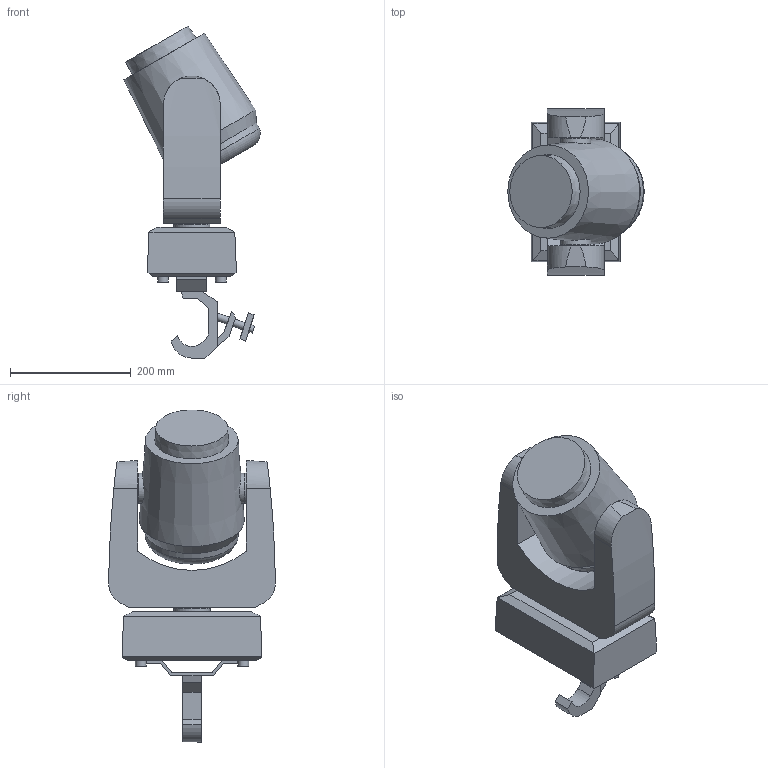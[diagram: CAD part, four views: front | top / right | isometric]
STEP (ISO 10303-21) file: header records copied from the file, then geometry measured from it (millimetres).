
FILE_DESCRIPTION(/* description */ ('Unknown'),/* implementation_level */ '2;1');
FILE_NAME(/* name */ '3D_Robin Spikie_as_is',/* time_stamp */ '2018-06-27T10:26:03+02:00',/* author */ ('Unknown'),/* organization */ ('Unknown'),/* preprocessor_version */ 'ST-DEVELOPER v16.7',/* originating_system */ 'DEX',/* authorisation */ $);
FILE_SCHEMA (('AUTOMOTIVE_DESIGN {1 0 10303 214 3 1 1}'));
Length unit declared in the file: millimetre
Products named in the file (7): 3D_Robin Spikie; SpikieBase; SpikieArm; Spikie Head; Omega_SlimClamp_90; Omega+SlimClamp; Clamp Doughty Slimline QT
Assembly tree (6 placements, depth 3):
  3D_Robin Spikie
    SpikieBase
    SpikieArm
    Spikie Head
    Omega_SlimClamp_90
      Omega+SlimClamp
      Clamp Doughty Slimline QT
Bounding box: 226.01 x 276.24 x 550.19 mm (x, y, z)
Volume: 10750691.7 mm3; surface area: 525934.6 mm2
Topology: 5 solids, 5 shells, 107 faces, 260 edges, 175 vertices
Faces by surface type: plane 75, cylinder 28, cone 3, torus 1
Full cylindrical faces by diameter (mm): 11 x2, 12 x4, 13 x1, 17.819 x4, 50 x3, 60 x2, 154.326 x1
Entity records: 3215 total; most frequent: CARTESIAN_POINT 628, DIRECTION 506, ORIENTED_EDGE 450, EDGE_CURVE 225, AXIS2_PLACEMENT_3D 173, VERTEX_POINT 161, LINE 160, VECTOR 160
